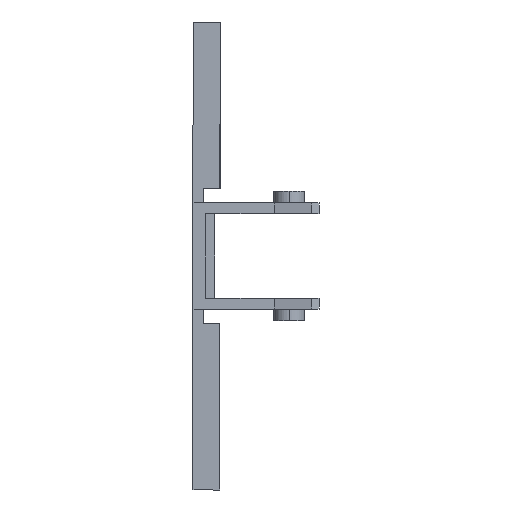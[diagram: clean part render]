
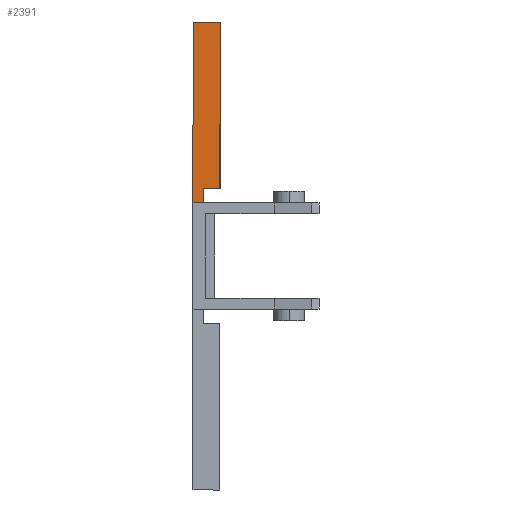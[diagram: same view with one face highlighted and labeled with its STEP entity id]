
A CAD part, front view. The second image highlights one B-rep face of the part: STEP entity #2391.
In plain terms, the highlighted planar face has unit normal (0, -1, 0).
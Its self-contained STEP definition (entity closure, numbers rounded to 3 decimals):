
#18 = LINE ( 'NONE', #1257, #688 ) ;
#27 = LINE ( 'NONE', #1296, #33 ) ;
#33 = VECTOR ( 'NONE', #1289, 1000. ) ;
#34 = VECTOR ( 'NONE', #1301, 1000. ) ;
#38 = LINE ( 'NONE', #1302, #34 ) ;
#245 = EDGE_LOOP ( 'NONE', ( #320, #319, #318, #317, #316, #315 ) ) ;
#315 = ORIENTED_EDGE ( 'NONE', *, *, #2025, .F. ) ;
#316 = ORIENTED_EDGE ( 'NONE', *, *, #2286, .F. ) ;
#317 = ORIENTED_EDGE ( 'NONE', *, *, #2071, .F. ) ;
#318 = ORIENTED_EDGE ( 'NONE', *, *, #2304, .F. ) ;
#319 = ORIENTED_EDGE ( 'NONE', *, *, #2177, .F. ) ;
#320 = ORIENTED_EDGE ( 'NONE', *, *, #2036, .F. ) ;
#607 = LINE ( 'NONE', #2537, #608 ) ;
#608 = VECTOR ( 'NONE', #2536, 1000. ) ;
#614 = VECTOR ( 'NONE', #2566, 1000. ) ;
#637 = LINE ( 'NONE', #2567, #614 ) ;
#688 = VECTOR ( 'NONE', #2854, 1000. ) ;
#815 = LINE ( 'NONE', #2701, #819 ) ;
#819 = VECTOR ( 'NONE', #2700, 1000. ) ;
#1167 = VERTEX_POINT ( 'NONE', #1604 ) ;
#1169 = VERTEX_POINT ( 'NONE', #1602 ) ;
#1170 = VERTEX_POINT ( 'NONE', #1601 ) ;
#1257 = CARTESIAN_POINT ( 'NONE',  ( 3., -9., 7.5 ) ) ;
#1289 = DIRECTION ( 'NONE',  ( 0., 0., 1. ) ) ;
#1296 = CARTESIAN_POINT ( 'NONE',  ( 0., -9., 5. ) ) ;
#1301 = DIRECTION ( 'NONE',  ( 1., 0., 0. ) ) ;
#1302 = CARTESIAN_POINT ( 'NONE',  ( 0., -9., 26. ) ) ;
#1465 = CARTESIAN_POINT ( 'NONE',  ( 3., -9., 7.5 ) ) ;
#1485 = CARTESIAN_POINT ( 'NONE',  ( 1.2, -9., 7.5 ) ) ;
#1496 = CARTESIAN_POINT ( 'NONE',  ( 3., -9., 26. ) ) ;
#1601 = CARTESIAN_POINT ( 'NONE',  ( 1.2, -9., 5.9 ) ) ;
#1602 = CARTESIAN_POINT ( 'NONE',  ( 0., -9., 26. ) ) ;
#1604 = CARTESIAN_POINT ( 'NONE',  ( 0., -9., 5.9 ) ) ;
#1653 = VERTEX_POINT ( 'NONE', #1496 ) ;
#1664 = VERTEX_POINT ( 'NONE', #1485 ) ;
#1684 = VERTEX_POINT ( 'NONE', #1465 ) ;
#1820 = FACE_OUTER_BOUND ( 'NONE', #245, .T. ) ;
#2025 = EDGE_CURVE ( 'NONE', #1169, #1653, #38, .T. ) ;
#2036 = EDGE_CURVE ( 'NONE', #1167, #1169, #27, .T. ) ;
#2071 = EDGE_CURVE ( 'NONE', #1684, #1664, #18, .T. ) ;
#2174 = AXIS2_PLACEMENT_3D ( 'NONE', #2902, #2910, #2907 ) ;
#2177 = EDGE_CURVE ( 'NONE', #1170, #1167, #815, .T. ) ;
#2286 = EDGE_CURVE ( 'NONE', #1653, #1684, #637, .T. ) ;
#2304 = EDGE_CURVE ( 'NONE', #1664, #1170, #607, .T. ) ;
#2391 = ADVANCED_FACE ( 'NONE', ( #1820 ), #2903, .F. ) ;
#2536 = DIRECTION ( 'NONE',  ( 0., 0., -1. ) ) ;
#2537 = CARTESIAN_POINT ( 'NONE',  ( 1.2, -9., 7.5 ) ) ;
#2566 = DIRECTION ( 'NONE',  ( 0., 0., -1. ) ) ;
#2567 = CARTESIAN_POINT ( 'NONE',  ( 3., -9., 26. ) ) ;
#2700 = DIRECTION ( 'NONE',  ( -1., 0., 0. ) ) ;
#2701 = CARTESIAN_POINT ( 'NONE',  ( 0., -9., 5.9 ) ) ;
#2854 = DIRECTION ( 'NONE',  ( -1., 0., 0. ) ) ;
#2902 = CARTESIAN_POINT ( 'NONE',  ( 0., -9., 5. ) ) ;
#2903 = PLANE ( 'NONE',  #2174 ) ;
#2907 = DIRECTION ( 'NONE',  ( 0., 0., 1. ) ) ;
#2910 = DIRECTION ( 'NONE',  ( 0., 1., 0. ) ) ;
